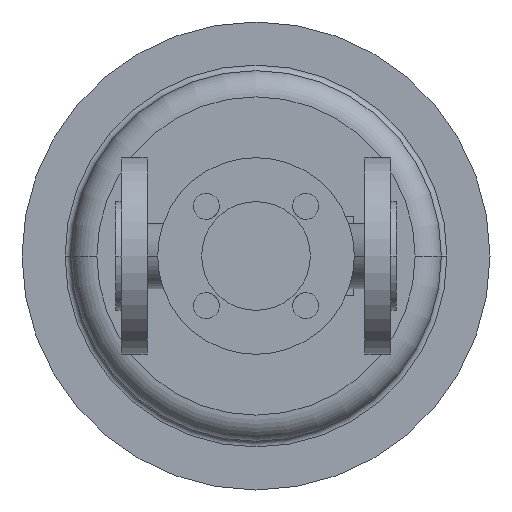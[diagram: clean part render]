
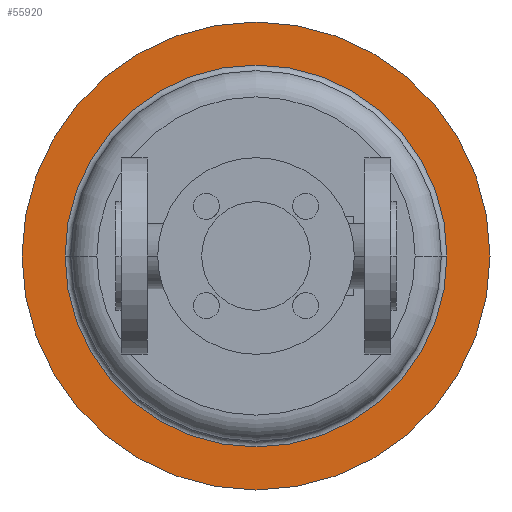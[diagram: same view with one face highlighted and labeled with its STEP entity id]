
A CAD part, front view. The second image highlights one B-rep face of the part: STEP entity #55920.
In plain terms, the highlighted planar face has unit normal (0, -1, 0).
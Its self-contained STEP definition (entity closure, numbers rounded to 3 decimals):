
#47150=CARTESIAN_POINT('',(-50.,568.,0.));
#47160=VERTEX_POINT('',#47150);
#47190=CARTESIAN_POINT('',(75.,568.,0.));
#47200=DIRECTION('',(0.,1.,0.));
#47210=DIRECTION('',(1.,0.,0.));
#47220=AXIS2_PLACEMENT_3D('',#47190,#47200,#47210);
#47230=CIRCLE('',#47220,125.);
#47240=CARTESIAN_POINT('',(200.,568.,0.));
#47250=VERTEX_POINT('',#47240);
#47260=EDGE_CURVE('',#47250,#47160,#47230,.T.);
#47510=CARTESIAN_POINT('',(75.,568.,0.));
#47520=DIRECTION('',(0.,1.,0.));
#47530=DIRECTION('',(1.,0.,0.));
#47540=AXIS2_PLACEMENT_3D('',#47510,#47520,#47530);
#47550=CIRCLE('',#47540,102.);
#47560=CARTESIAN_POINT('',(75.,568.,102.));
#47570=VERTEX_POINT('',#47560);
#47580=CARTESIAN_POINT('',(177.,568.,0.));
#47590=VERTEX_POINT('',#47580);
#47600=EDGE_CURVE('',#47570,#47590,#47550,.T.);
#47890=CARTESIAN_POINT('',(-27.,568.,0.));
#47900=VERTEX_POINT('',#47890);
#47930=EDGE_CURVE('',#47900,#47570,#47550,.T.);
#55760=CARTESIAN_POINT('',(188.5,568.,0.));
#55770=DIRECTION('',(0.,-1.,0.));
#55780=DIRECTION('',(-1.,0.,0.));
#55790=AXIS2_PLACEMENT_3D('',#55760,#55770,#55780);
#55800=PLANE('',#55790);
#55810=EDGE_CURVE('',#47160,#47250,#47230,.T.);
#55820=ORIENTED_EDGE('',*,*,#55810,.F.);
#55830=ORIENTED_EDGE('',*,*,#47260,.F.);
#55840=EDGE_LOOP('',(#55830,#55820));
#55850=FACE_OUTER_BOUND('',#55840,.T.);
#55860=EDGE_CURVE('',#47590,#47900,#47550,.T.);
#55870=ORIENTED_EDGE('',*,*,#55860,.T.);
#55880=ORIENTED_EDGE('',*,*,#47600,.T.);
#55890=ORIENTED_EDGE('',*,*,#47930,.T.);
#55900=EDGE_LOOP('',(#55890,#55880,#55870));
#55910=FACE_BOUND('',#55900,.T.);
#55920=ADVANCED_FACE('',(#55850,#55910),#55800,.T.);
